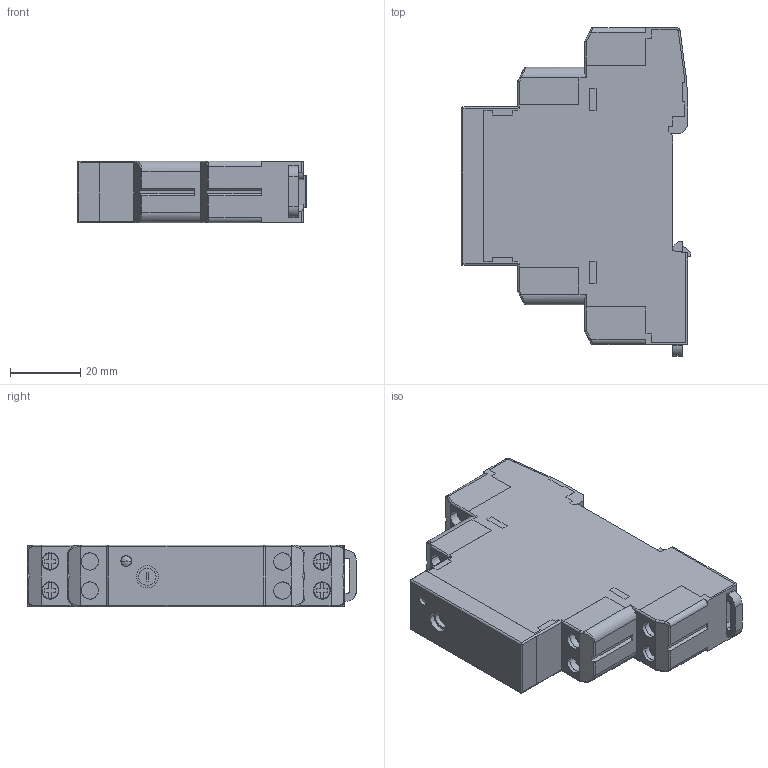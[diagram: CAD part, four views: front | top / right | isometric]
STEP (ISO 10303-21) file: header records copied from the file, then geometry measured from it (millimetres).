
FILE_DESCRIPTION (( 'STEP AP203' ), '1' );
FILE_NAME ('RPS 15 _1002023.STEP', '2023-02-10T05:57:08', ( '' ), ( '' ), 'SwSTEP 2.0', 'SolidWorks 2017', '' );
FILE_SCHEMA (( 'CONFIG_CONTROL_DESIGN' ));
Length unit declared in the file: millimetre
Products named in the file (1): RPS 15 _1002023
Bounding box: 65.21 x 93.34 x 17.5 mm (x, y, z)
Volume: 76834.4 mm3; surface area: 15118.1 mm2
Topology: 1 solids, 1 shells, 412 faces, 1079 edges, 689 vertices
Faces by surface type: plane 292, cylinder 102, bspline 18
Entity records: 15560 total; most frequent: CARTESIAN_POINT 5825, ORIENTED_EDGE 2158, DIRECTION 1702, EDGE_CURVE 1079, VECTOR 860, LINE 860, VERTEX_POINT 689, EDGE_LOOP 434
